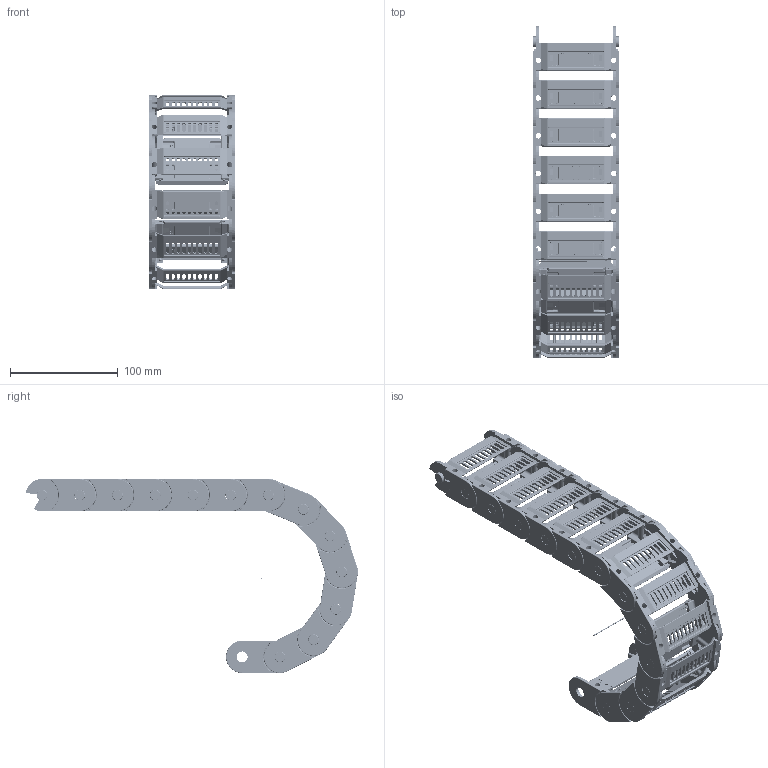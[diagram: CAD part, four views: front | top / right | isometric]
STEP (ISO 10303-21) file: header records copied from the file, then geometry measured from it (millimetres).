
FILE_DESCRIPTION((''),'2;1');
FILE_NAME('C:\Uebbing\PARAMETERKETTEN\KOLIBRI\Kol_30_080_0\KOLIBRI 30_080_0_R100.stp','2012-03-05T10:11:29',('Uebbing'),(''),'Autodesk Inventor 10','Autodesk Inventor 10','');
FILE_SCHEMA(('AUTOMOTIVE_DESIGN { 1 0 10303 214 1 1 1 1 }'));
Length unit declared in the file: millimetre
Products named in the file (5): KOLIBRI 30_080_0_PARAMETRISCH; Achse; Kol_30_080_0 Glied; Kol 30_080_0 Lasche; Kol 30_080_0 Klappsteg
Assembly tree (16 placements, depth 3):
  KOLIBRI 30_080_0_PARAMETRISCH
    Achse
    Kol_30_080_0 Glied  x13
      Kol 30_080_0 Lasche
      Kol 30_080_0 Klappsteg
Bounding box: 80 x 307.64 x 180 mm (x, y, z)
Volume: 239147.3 mm3; surface area: 222196.9 mm2
Topology: 27 solids, 27 shells, 13159 faces, 36053 edges, 23299 vertices
Faces by surface type: bspline 5239, plane 5137, cylinder 2107, torus 507, cone 130, sphere 39
Full cylindrical faces by diameter (mm): 1 x1, 1.166 x13, 2.048 x13, 2.8 x78, 5.1 x13, 10 x13, 10.1 x13
Entity records: 38945 total; most frequent: CARTESIAN_POINT 14771, ORIENTED_EDGE 5468, DIRECTION 4259, EDGE_CURVE 2734, VERTEX_POINT 1781, VECTOR 1623, LINE 1623, AXIS2_PLACEMENT_3D 1318
